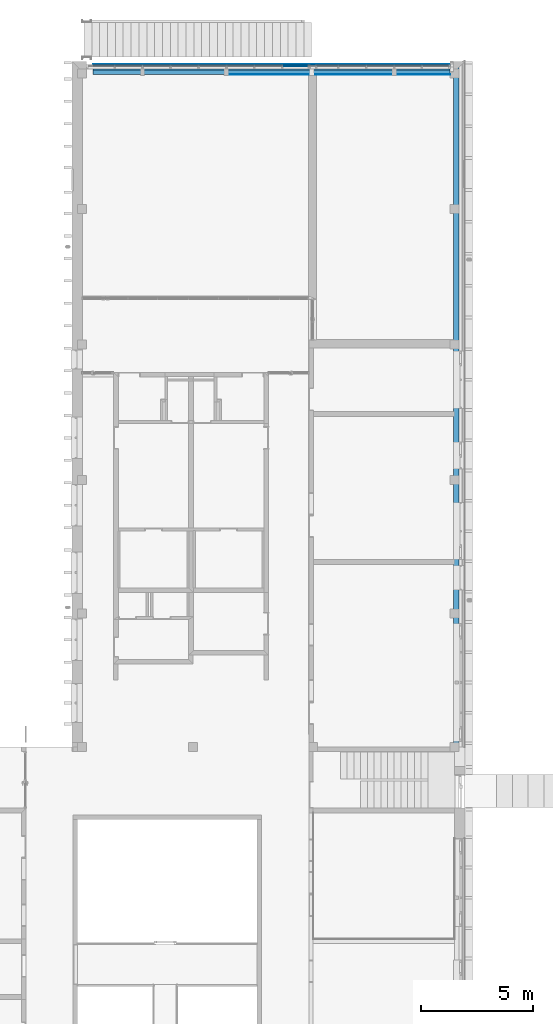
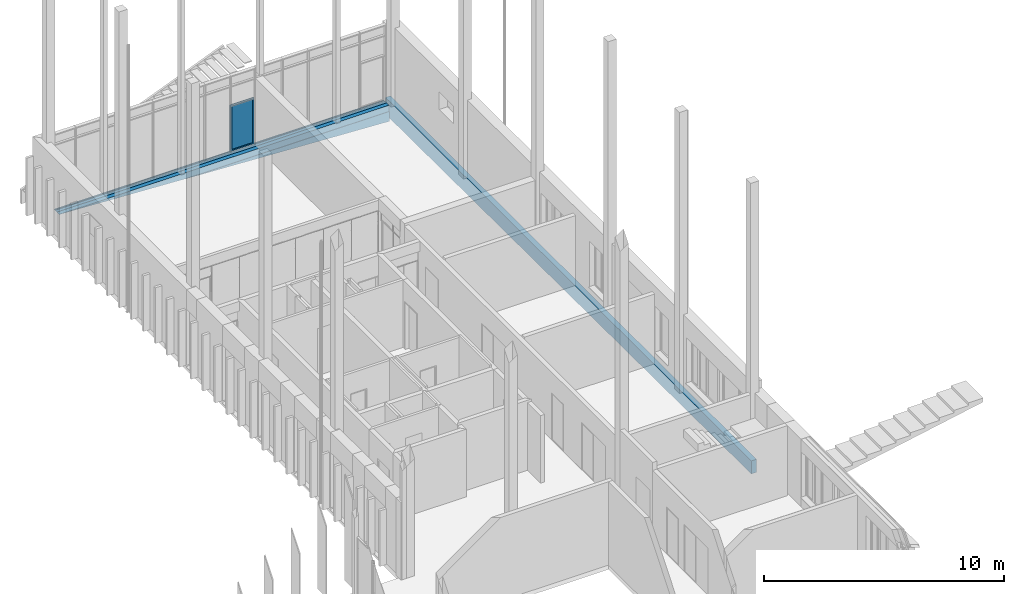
# One storey, part 63 of 89: 9 building element parts, 4 elements without a shape of their own.
"""IFC2X3 building model written with IfcOpenShell, lengths in millimetres."""

from ifc_helpers import new_model, entity, si_unit, converted_unit, derived_unit, money_unit, direction, frame, origin_with_axes, place, context, subcontext, project, spatial, polyline, outline, extrude, boolean, faceted_brep, material, type_object, element, aggregate, save


model = new_model("IFC2X3")

# Units and contexts
model_context = context("Model", 3, precision=0.01, world=origin_with_axes(), true_north=direction((0.0, 1.0)))
body_context = subcontext(model_context, "Body", "Model", "MODEL_VIEW")
ifc_project = project(units=[si_unit("LENGTHUNIT", "METRE", prefix="MILLI"), si_unit("AREAUNIT", "SQUARE_METRE"), si_unit("VOLUMEUNIT", "CUBIC_METRE"), converted_unit("PLANEANGLEUNIT", "DEGREE", entity("IfcPlaneAngleMeasure", 0.0174532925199), si_unit("PLANEANGLEUNIT", "RADIAN"), dimensions=[0, 0, 0, 0, 0, 0, 0]), si_unit("SOLIDANGLEUNIT", "STERADIAN"), money_unit("EUR"), converted_unit("TIMEUNIT", "Year", entity("IfcTimeMeasure", 31556926.0), si_unit("TIMEUNIT", "SECOND"), dimensions=[0, 0, 1, 0, 0, 0, 0]), si_unit("MASSUNIT", "GRAM", prefix="KILO"), si_unit("THERMODYNAMICTEMPERATUREUNIT", "DEGREE_CELSIUS"), si_unit("LUMINOUSINTENSITYUNIT", "LUMEN"), si_unit("ENERGYUNIT", "JOULE", prefix="MEGA"), derived_unit("THERMALCONDUCTANCEUNIT", [(si_unit("POWERUNIT", "WATT"), 1), (si_unit("LENGTHUNIT", "METRE"), -1), (si_unit("THERMODYNAMICTEMPERATUREUNIT", "KELVIN"), -1)]), derived_unit("SPECIFICHEATCAPACITYUNIT", [(si_unit("ENERGYUNIT", "JOULE"), 1), (si_unit("MASSUNIT", "GRAM", prefix="KILO"), -1), (si_unit("THERMODYNAMICTEMPERATUREUNIT", "KELVIN"), -1)]), derived_unit("MASSDENSITYUNIT", [(si_unit("MASSUNIT", "GRAM", prefix="KILO"), 1), (si_unit("VOLUMEUNIT", "CUBIC_METRE"), -1)])], contexts=[model_context])

# Site, building, storey
site_placement = place(None, origin_with_axes())
site = spatial("IfcSite", under=ifc_project, at=site_placement, Name="Puškini 31, Narva", CompositionType="ELEMENT")
building_placement = place(site_placement, origin_with_axes())
building = spatial("IfcBuilding", under=site, at=building_placement, Name="Narva Riigigümnaasium", CompositionType="ELEMENT")
storey_placement = place(building_placement, frame((0.0, 0.0, -3300.0), z_axis=(0.0, 0.0, 1.0), x_axis=(1.0, 0.0, 0.0)))
storey = spatial("IfcBuildingStorey", under=building, at=storey_placement, Name="1.korrus -3.3", CompositionType="ELEMENT", Elevation=-3300.0)

# Wall, building element parts
wall_type_1 = type_object("IfcWallType", Name="G-VS-01 468", PredefinedType="NOTDEFINED")
wall_1_placement = place(storey_placement, frame((53800.0000018, 254190.0, -849.33771919), z_axis=(0.0, 0.0, 1.0), x_axis=(-1.0, 0.0, 0.0)))
wall_1 = element("IfcWall", 1, at=wall_1_placement, inside=storey, type_object=wall_type_1, Name="Välissein")
ifc_material_1 = material(Name="Salto-siseviimistlus-seinad")
building_element_part_1_placement = place(wall_1_placement, origin_with_axes())
building_element_part_1 = element("IfcBuildingElementPart", 2, at=building_element_part_1_placement, material=ifc_material_1, Name="Salto-siseviimistlus-seinad", context=body_context, shape_type="CSG", body=[
    boolean("DIFFERENCE", boolean("DIFFERENCE", boolean("DIFFERENCE", boolean("DIFFERENCE", boolean("DIFFERENCE", boolean("DIFFERENCE", extrude(outline(polyline([(0.0, 200.0), (15908.0743338, 200.0), (15908.0743338, 210.0), (0.0, 210.0), (0.0, 200.0)])), origin_with_axes(), (0.0, 0.0, 1.0), 849.33771919), faceted_brep([(0.0, 210.0, 539.33771919), (0.0, 200.0, 539.33771919), (0.0, 200.0, 849.33771919), (0.0, 210.0, 849.33771919), (9860.88847665, 200.0, 539.33771919), (9860.88847665, 210.0, 539.33771919), (0.0, 200.0, 33.8339195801), (0.0, 200.0, 0.0), (15908.0743338, 200.0, 0.0), (15908.0743338, 200.0, 849.33771919), (15908.0743338, 210.0, 849.33771919), (15908.0743338, 210.0, 0.0), (0.0, 210.0, 0.0), (0.0, 210.0, 33.8339195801)], [[[0, 1, 2, 3]], [[4, 1, 0, 5]], [[4, 6, 7, 8, 9, 2, 1]], [[3, 2, 9, 10]], [[5, 0, 3, 10, 11, 12, 13]], [[13, 6, 4, 5]], [[6, 13, 12, 7]], [[8, 7, 12, 11]], [[9, 8, 11, 10]]])), faceted_brep([(15908.0743338, 0.0, 849.33771919), (0.0, 0.0, 33.8339195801), (0.0, 0.0, 0.0), (15908.0743338, 0.0, 0.0), (0.0, 200.0, 33.8339195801), (15908.0743338, 200.0, 849.33771919), (9860.88847665, 200.0, 539.33771919), (0.0, 200.0, 0.0), (15908.0743338, 200.0, 0.0)], [[[0, 1, 2, 3]], [[4, 1, 0, 5, 6]], [[1, 4, 7, 2]], [[3, 2, 7, 8]], [[5, 0, 3, 8]], [[6, 5, 8, 7, 4]]])), faceted_brep([(15908.0743338, -150.0, 849.33771919), (0.0, -150.0, 33.8339195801), (0.0, -150.0, 0.0), (15908.0743338, -150.0, 0.0), (0.0, 0.0, 33.8339195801), (15908.0743338, 0.0, 849.33771919), (0.0, 0.0, 0.0), (15908.0743338, 0.0, 0.0)], [[[0, 1, 2, 3]], [[4, 1, 0, 5]], [[1, 4, 6, 2]], [[3, 2, 6, 7]], [[5, 0, 3, 7]], [[4, 5, 7, 6]]])), faceted_brep([(15908.0743338, -200.0, 849.33771919), (0.0, -200.0, 33.8339195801), (0.0, -200.0, 0.0), (15908.0743338, -200.0, 0.0), (0.0, -150.0, 33.8339195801), (15908.0743338, -150.0, 849.33771919), (0.0, -150.0, 0.0), (15908.0743338, -150.0, 0.0)], [[[0, 1, 2, 3]], [[4, 1, 0, 5]], [[1, 4, 6, 2]], [[3, 2, 6, 7]], [[5, 0, 3, 7]], [[4, 5, 7, 6]]])), faceted_brep([(15908.0743338, -250.0, 849.33771919), (0.0, -250.0, 33.8339195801), (0.0, -250.0, 0.0), (15908.0743338, -250.0, 0.0), (0.0, -200.0, 33.8339195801), (15908.0743338, -200.0, 849.33771919), (0.0, -200.0, 0.0), (15908.0743338, -200.0, 0.0)], [[[0, 1, 2, 3]], [[4, 1, 0, 5]], [[1, 4, 6, 2]], [[3, 2, 6, 7]], [[5, 0, 3, 7]], [[4, 5, 7, 6]]])), faceted_brep([(15908.0743338, -258.0, 849.33771919), (0.0, -258.0, 33.8339195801), (0.0, -258.0, 0.0), (15908.0743338, -258.0, 0.0), (0.0, -250.0, 33.8339195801), (15908.0743338, -250.0, 849.33771919), (0.0, -250.0, 0.0), (15908.0743338, -250.0, 0.0)], [[[0, 1, 2, 3]], [[4, 1, 0, 5]], [[1, 4, 6, 2]], [[3, 2, 6, 7]], [[5, 0, 3, 7]], [[4, 5, 7, 6]]])),
])
ifc_material_2 = material(Name="Betoon element")
building_element_part_2_placement = place(wall_1_placement, origin_with_axes())
building_element_part_2 = element("IfcBuildingElementPart", 3, at=building_element_part_2_placement, material=ifc_material_2, Name="Betoon element", context=body_context, shape_type="CSG", body=[
    boolean("DIFFERENCE", boolean("DIFFERENCE", boolean("DIFFERENCE", boolean("DIFFERENCE", boolean("DIFFERENCE", boolean("DIFFERENCE", extrude(outline(polyline([(0.0, 0.0), (15908.0743338, 0.0), (15908.0743338, 200.0), (0.0, 200.0), (0.0, 0.0)])), origin_with_axes(), (0.0, 0.0, 1.0), 849.33771919), faceted_brep([(0.0, 210.0, 539.33771919), (0.0, 200.0, 539.33771919), (0.0, 200.0, 849.33771919), (0.0, 210.0, 849.33771919), (9860.88847665, 200.0, 539.33771919), (9860.88847665, 210.0, 539.33771919), (0.0, 200.0, 33.8339195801), (0.0, 200.0, 0.0), (15908.0743338, 200.0, 0.0), (15908.0743338, 200.0, 849.33771919), (15908.0743338, 210.0, 849.33771919), (15908.0743338, 210.0, 0.0), (0.0, 210.0, 0.0), (0.0, 210.0, 33.8339195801)], [[[0, 1, 2, 3]], [[4, 1, 0, 5]], [[4, 6, 7, 8, 9, 2, 1]], [[3, 2, 9, 10]], [[5, 0, 3, 10, 11, 12, 13]], [[13, 6, 4, 5]], [[6, 13, 12, 7]], [[8, 7, 12, 11]], [[9, 8, 11, 10]]])), faceted_brep([(15908.0743338, 0.0, 849.33771919), (0.0, 0.0, 33.8339195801), (0.0, 0.0, 0.0), (15908.0743338, 0.0, 0.0), (0.0, 200.0, 33.8339195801), (15908.0743338, 200.0, 849.33771919), (9860.88847665, 200.0, 539.33771919), (0.0, 200.0, 0.0), (15908.0743338, 200.0, 0.0)], [[[0, 1, 2, 3]], [[4, 1, 0, 5, 6]], [[1, 4, 7, 2]], [[3, 2, 7, 8]], [[5, 0, 3, 8]], [[6, 5, 8, 7, 4]]])), faceted_brep([(15908.0743338, -150.0, 849.33771919), (0.0, -150.0, 33.8339195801), (0.0, -150.0, 0.0), (15908.0743338, -150.0, 0.0), (0.0, 0.0, 33.8339195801), (15908.0743338, 0.0, 849.33771919), (0.0, 0.0, 0.0), (15908.0743338, 0.0, 0.0)], [[[0, 1, 2, 3]], [[4, 1, 0, 5]], [[1, 4, 6, 2]], [[3, 2, 6, 7]], [[5, 0, 3, 7]], [[4, 5, 7, 6]]])), faceted_brep([(15908.0743338, -200.0, 849.33771919), (0.0, -200.0, 33.8339195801), (0.0, -200.0, 0.0), (15908.0743338, -200.0, 0.0), (0.0, -150.0, 33.8339195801), (15908.0743338, -150.0, 849.33771919), (0.0, -150.0, 0.0), (15908.0743338, -150.0, 0.0)], [[[0, 1, 2, 3]], [[4, 1, 0, 5]], [[1, 4, 6, 2]], [[3, 2, 6, 7]], [[5, 0, 3, 7]], [[4, 5, 7, 6]]])), faceted_brep([(15908.0743338, -250.0, 849.33771919), (0.0, -250.0, 33.8339195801), (0.0, -250.0, 0.0), (15908.0743338, -250.0, 0.0), (0.0, -200.0, 33.8339195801), (15908.0743338, -200.0, 849.33771919), (0.0, -200.0, 0.0), (15908.0743338, -200.0, 0.0)], [[[0, 1, 2, 3]], [[4, 1, 0, 5]], [[1, 4, 6, 2]], [[3, 2, 6, 7]], [[5, 0, 3, 7]], [[4, 5, 7, 6]]])), faceted_brep([(15908.0743338, -258.0, 849.33771919), (0.0, -258.0, 33.8339195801), (0.0, -258.0, 0.0), (15908.0743338, -258.0, 0.0), (0.0, -250.0, 33.8339195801), (15908.0743338, -250.0, 849.33771919), (0.0, -250.0, 0.0), (15908.0743338, -250.0, 0.0)], [[[0, 1, 2, 3]], [[4, 1, 0, 5]], [[1, 4, 6, 2]], [[3, 2, 6, 7]], [[5, 0, 3, 7]], [[4, 5, 7, 6]]])),
])
ifc_material_3 = material(Name="Salto-PIR soojustus")
building_element_part_3_placement = place(wall_1_placement, origin_with_axes())
building_element_part_3 = element("IfcBuildingElementPart", 4, at=building_element_part_3_placement, material=ifc_material_3, Name="Salto-PIR soojustus", context=body_context, shape_type="CSG", body=[
    boolean("DIFFERENCE", boolean("DIFFERENCE", boolean("DIFFERENCE", boolean("DIFFERENCE", boolean("DIFFERENCE", boolean("DIFFERENCE", extrude(outline(polyline([(0.0, -150.0), (15908.0743338, -150.0), (15908.0743338, 0.0), (0.0, 0.0), (0.0, -150.0)])), origin_with_axes(), (0.0, 0.0, 1.0), 849.33771919), faceted_brep([(0.0, 210.0, 539.33771919), (0.0, 200.0, 539.33771919), (0.0, 200.0, 849.33771919), (0.0, 210.0, 849.33771919), (9860.88847665, 200.0, 539.33771919), (9860.88847665, 210.0, 539.33771919), (0.0, 200.0, 33.8339195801), (0.0, 200.0, 0.0), (15908.0743338, 200.0, 0.0), (15908.0743338, 200.0, 849.33771919), (15908.0743338, 210.0, 849.33771919), (15908.0743338, 210.0, 0.0), (0.0, 210.0, 0.0), (0.0, 210.0, 33.8339195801)], [[[0, 1, 2, 3]], [[4, 1, 0, 5]], [[4, 6, 7, 8, 9, 2, 1]], [[3, 2, 9, 10]], [[5, 0, 3, 10, 11, 12, 13]], [[13, 6, 4, 5]], [[6, 13, 12, 7]], [[8, 7, 12, 11]], [[9, 8, 11, 10]]])), faceted_brep([(15908.0743338, 0.0, 849.33771919), (0.0, 0.0, 33.8339195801), (0.0, 0.0, 0.0), (15908.0743338, 0.0, 0.0), (0.0, 200.0, 33.8339195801), (15908.0743338, 200.0, 849.33771919), (9860.88847665, 200.0, 539.33771919), (0.0, 200.0, 0.0), (15908.0743338, 200.0, 0.0)], [[[0, 1, 2, 3]], [[4, 1, 0, 5, 6]], [[1, 4, 7, 2]], [[3, 2, 7, 8]], [[5, 0, 3, 8]], [[6, 5, 8, 7, 4]]])), faceted_brep([(15908.0743338, -150.0, 849.33771919), (0.0, -150.0, 33.8339195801), (0.0, -150.0, 0.0), (15908.0743338, -150.0, 0.0), (0.0, 0.0, 33.8339195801), (15908.0743338, 0.0, 849.33771919), (0.0, 0.0, 0.0), (15908.0743338, 0.0, 0.0)], [[[0, 1, 2, 3]], [[4, 1, 0, 5]], [[1, 4, 6, 2]], [[3, 2, 6, 7]], [[5, 0, 3, 7]], [[4, 5, 7, 6]]])), faceted_brep([(15908.0743338, -200.0, 849.33771919), (0.0, -200.0, 33.8339195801), (0.0, -200.0, 0.0), (15908.0743338, -200.0, 0.0), (0.0, -150.0, 33.8339195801), (15908.0743338, -150.0, 849.33771919), (0.0, -150.0, 0.0), (15908.0743338, -150.0, 0.0)], [[[0, 1, 2, 3]], [[4, 1, 0, 5]], [[1, 4, 6, 2]], [[3, 2, 6, 7]], [[5, 0, 3, 7]], [[4, 5, 7, 6]]])), faceted_brep([(15908.0743338, -250.0, 849.33771919), (0.0, -250.0, 33.8339195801), (0.0, -250.0, 0.0), (15908.0743338, -250.0, 0.0), (0.0, -200.0, 33.8339195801), (15908.0743338, -200.0, 849.33771919), (0.0, -200.0, 0.0), (15908.0743338, -200.0, 0.0)], [[[0, 1, 2, 3]], [[4, 1, 0, 5]], [[1, 4, 6, 2]], [[3, 2, 6, 7]], [[5, 0, 3, 7]], [[4, 5, 7, 6]]])), faceted_brep([(15908.0743338, -258.0, 849.33771919), (0.0, -258.0, 33.8339195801), (0.0, -258.0, 0.0), (15908.0743338, -258.0, 0.0), (0.0, -250.0, 33.8339195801), (15908.0743338, -250.0, 849.33771919), (0.0, -250.0, 0.0), (15908.0743338, -250.0, 0.0)], [[[0, 1, 2, 3]], [[4, 1, 0, 5]], [[1, 4, 6, 2]], [[3, 2, 6, 7]], [[5, 0, 3, 7]], [[4, 5, 7, 6]]])),
])
building_element_part_4_placement = place(wall_1_placement, origin_with_axes())
building_element_part_4 = element("IfcBuildingElementPart", 5, at=building_element_part_4_placement, material=ifc_material_3, Name="Salto-PIR soojustus", context=body_context, shape_type="CSG", body=[
    boolean("DIFFERENCE", boolean("DIFFERENCE", boolean("DIFFERENCE", boolean("DIFFERENCE", boolean("DIFFERENCE", boolean("DIFFERENCE", extrude(outline(polyline([(0.0, -200.0), (15908.0743338, -200.0), (15908.0743338, -150.0), (0.0, -150.0), (0.0, -200.0)])), origin_with_axes(), (0.0, 0.0, 1.0), 849.33771919), faceted_brep([(0.0, 210.0, 539.33771919), (0.0, 200.0, 539.33771919), (0.0, 200.0, 849.33771919), (0.0, 210.0, 849.33771919), (9860.88847665, 200.0, 539.33771919), (9860.88847665, 210.0, 539.33771919), (0.0, 200.0, 33.8339195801), (0.0, 200.0, 0.0), (15908.0743338, 200.0, 0.0), (15908.0743338, 200.0, 849.33771919), (15908.0743338, 210.0, 849.33771919), (15908.0743338, 210.0, 0.0), (0.0, 210.0, 0.0), (0.0, 210.0, 33.8339195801)], [[[0, 1, 2, 3]], [[4, 1, 0, 5]], [[4, 6, 7, 8, 9, 2, 1]], [[3, 2, 9, 10]], [[5, 0, 3, 10, 11, 12, 13]], [[13, 6, 4, 5]], [[6, 13, 12, 7]], [[8, 7, 12, 11]], [[9, 8, 11, 10]]])), faceted_brep([(15908.0743338, 0.0, 849.33771919), (0.0, 0.0, 33.8339195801), (0.0, 0.0, 0.0), (15908.0743338, 0.0, 0.0), (0.0, 200.0, 33.8339195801), (15908.0743338, 200.0, 849.33771919), (9860.88847665, 200.0, 539.33771919), (0.0, 200.0, 0.0), (15908.0743338, 200.0, 0.0)], [[[0, 1, 2, 3]], [[4, 1, 0, 5, 6]], [[1, 4, 7, 2]], [[3, 2, 7, 8]], [[5, 0, 3, 8]], [[6, 5, 8, 7, 4]]])), faceted_brep([(15908.0743338, -150.0, 849.33771919), (0.0, -150.0, 33.8339195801), (0.0, -150.0, 0.0), (15908.0743338, -150.0, 0.0), (0.0, 0.0, 33.8339195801), (15908.0743338, 0.0, 849.33771919), (0.0, 0.0, 0.0), (15908.0743338, 0.0, 0.0)], [[[0, 1, 2, 3]], [[4, 1, 0, 5]], [[1, 4, 6, 2]], [[3, 2, 6, 7]], [[5, 0, 3, 7]], [[4, 5, 7, 6]]])), faceted_brep([(15908.0743338, -200.0, 849.33771919), (0.0, -200.0, 33.8339195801), (0.0, -200.0, 0.0), (15908.0743338, -200.0, 0.0), (0.0, -150.0, 33.8339195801), (15908.0743338, -150.0, 849.33771919), (0.0, -150.0, 0.0), (15908.0743338, -150.0, 0.0)], [[[0, 1, 2, 3]], [[4, 1, 0, 5]], [[1, 4, 6, 2]], [[3, 2, 6, 7]], [[5, 0, 3, 7]], [[4, 5, 7, 6]]])), faceted_brep([(15908.0743338, -250.0, 849.33771919), (0.0, -250.0, 33.8339195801), (0.0, -250.0, 0.0), (15908.0743338, -250.0, 0.0), (0.0, -200.0, 33.8339195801), (15908.0743338, -200.0, 849.33771919), (0.0, -200.0, 0.0), (15908.0743338, -200.0, 0.0)], [[[0, 1, 2, 3]], [[4, 1, 0, 5]], [[1, 4, 6, 2]], [[3, 2, 6, 7]], [[5, 0, 3, 7]], [[4, 5, 7, 6]]])), faceted_brep([(15908.0743338, -258.0, 849.33771919), (0.0, -258.0, 33.8339195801), (0.0, -258.0, 0.0), (15908.0743338, -258.0, 0.0), (0.0, -250.0, 33.8339195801), (15908.0743338, -250.0, 849.33771919), (0.0, -250.0, 0.0), (15908.0743338, -250.0, 0.0)], [[[0, 1, 2, 3]], [[4, 1, 0, 5]], [[1, 4, 6, 2]], [[3, 2, 6, 7]], [[5, 0, 3, 7]], [[4, 5, 7, 6]]])),
])
ifc_material_4 = material(Name="Salto-roovitus")
building_element_part_5_placement = place(wall_1_placement, origin_with_axes())
building_element_part_5 = element("IfcBuildingElementPart", 6, at=building_element_part_5_placement, material=ifc_material_4, Name="Salto-roovitus", context=body_context, shape_type="CSG", body=[
    boolean("DIFFERENCE", boolean("DIFFERENCE", boolean("DIFFERENCE", boolean("DIFFERENCE", boolean("DIFFERENCE", boolean("DIFFERENCE", extrude(outline(polyline([(0.0, -250.0), (15908.0743338, -250.0), (15908.0743338, -200.0), (0.0, -200.0), (0.0, -250.0)])), origin_with_axes(), (0.0, 0.0, 1.0), 849.33771919), faceted_brep([(0.0, 210.0, 539.33771919), (0.0, 200.0, 539.33771919), (0.0, 200.0, 849.33771919), (0.0, 210.0, 849.33771919), (9860.88847665, 200.0, 539.33771919), (9860.88847665, 210.0, 539.33771919), (0.0, 200.0, 33.8339195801), (0.0, 200.0, 0.0), (15908.0743338, 200.0, 0.0), (15908.0743338, 200.0, 849.33771919), (15908.0743338, 210.0, 849.33771919), (15908.0743338, 210.0, 0.0), (0.0, 210.0, 0.0), (0.0, 210.0, 33.8339195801)], [[[0, 1, 2, 3]], [[4, 1, 0, 5]], [[4, 6, 7, 8, 9, 2, 1]], [[3, 2, 9, 10]], [[5, 0, 3, 10, 11, 12, 13]], [[13, 6, 4, 5]], [[6, 13, 12, 7]], [[8, 7, 12, 11]], [[9, 8, 11, 10]]])), faceted_brep([(15908.0743338, 0.0, 849.33771919), (0.0, 0.0, 33.8339195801), (0.0, 0.0, 0.0), (15908.0743338, 0.0, 0.0), (0.0, 200.0, 33.8339195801), (15908.0743338, 200.0, 849.33771919), (9860.88847665, 200.0, 539.33771919), (0.0, 200.0, 0.0), (15908.0743338, 200.0, 0.0)], [[[0, 1, 2, 3]], [[4, 1, 0, 5, 6]], [[1, 4, 7, 2]], [[3, 2, 7, 8]], [[5, 0, 3, 8]], [[6, 5, 8, 7, 4]]])), faceted_brep([(15908.0743338, -150.0, 849.33771919), (0.0, -150.0, 33.8339195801), (0.0, -150.0, 0.0), (15908.0743338, -150.0, 0.0), (0.0, 0.0, 33.8339195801), (15908.0743338, 0.0, 849.33771919), (0.0, 0.0, 0.0), (15908.0743338, 0.0, 0.0)], [[[0, 1, 2, 3]], [[4, 1, 0, 5]], [[1, 4, 6, 2]], [[3, 2, 6, 7]], [[5, 0, 3, 7]], [[4, 5, 7, 6]]])), faceted_brep([(15908.0743338, -200.0, 849.33771919), (0.0, -200.0, 33.8339195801), (0.0, -200.0, 0.0), (15908.0743338, -200.0, 0.0), (0.0, -150.0, 33.8339195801), (15908.0743338, -150.0, 849.33771919), (0.0, -150.0, 0.0), (15908.0743338, -150.0, 0.0)], [[[0, 1, 2, 3]], [[4, 1, 0, 5]], [[1, 4, 6, 2]], [[3, 2, 6, 7]], [[5, 0, 3, 7]], [[4, 5, 7, 6]]])), faceted_brep([(15908.0743338, -250.0, 849.33771919), (0.0, -250.0, 33.8339195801), (0.0, -250.0, 0.0), (15908.0743338, -250.0, 0.0), (0.0, -200.0, 33.8339195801), (15908.0743338, -200.0, 849.33771919), (0.0, -200.0, 0.0), (15908.0743338, -200.0, 0.0)], [[[0, 1, 2, 3]], [[4, 1, 0, 5]], [[1, 4, 6, 2]], [[3, 2, 6, 7]], [[5, 0, 3, 7]], [[4, 5, 7, 6]]])), faceted_brep([(15908.0743338, -258.0, 849.33771919), (0.0, -258.0, 33.8339195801), (0.0, -258.0, 0.0), (15908.0743338, -258.0, 0.0), (0.0, -250.0, 33.8339195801), (15908.0743338, -250.0, 849.33771919), (0.0, -250.0, 0.0), (15908.0743338, -250.0, 0.0)], [[[0, 1, 2, 3]], [[4, 1, 0, 5]], [[1, 4, 6, 2]], [[3, 2, 6, 7]], [[5, 0, 3, 7]], [[4, 5, 7, 6]]])),
])
ifc_material_5 = material(Name="fassaadiplaat")
building_element_part_6_placement = place(wall_1_placement, origin_with_axes())
building_element_part_6 = element("IfcBuildingElementPart", 7, at=building_element_part_6_placement, material=ifc_material_5, Name="fassaadiplaat", context=body_context, shape_type="CSG", body=[
    boolean("DIFFERENCE", boolean("DIFFERENCE", boolean("DIFFERENCE", boolean("DIFFERENCE", boolean("DIFFERENCE", boolean("DIFFERENCE", extrude(outline(polyline([(0.0, -258.0), (15908.0743338, -258.0), (15908.0743338, -250.0), (0.0, -250.0), (0.0, -258.0)])), origin_with_axes(), (0.0, 0.0, 1.0), 849.33771919), faceted_brep([(0.0, 210.0, 539.33771919), (0.0, 200.0, 539.33771919), (0.0, 200.0, 849.33771919), (0.0, 210.0, 849.33771919), (9860.88847665, 200.0, 539.33771919), (9860.88847665, 210.0, 539.33771919), (0.0, 200.0, 33.8339195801), (0.0, 200.0, 0.0), (15908.0743338, 200.0, 0.0), (15908.0743338, 200.0, 849.33771919), (15908.0743338, 210.0, 849.33771919), (15908.0743338, 210.0, 0.0), (0.0, 210.0, 0.0), (0.0, 210.0, 33.8339195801)], [[[0, 1, 2, 3]], [[4, 1, 0, 5]], [[4, 6, 7, 8, 9, 2, 1]], [[3, 2, 9, 10]], [[5, 0, 3, 10, 11, 12, 13]], [[13, 6, 4, 5]], [[6, 13, 12, 7]], [[8, 7, 12, 11]], [[9, 8, 11, 10]]])), faceted_brep([(15908.0743338, 0.0, 849.33771919), (0.0, 0.0, 33.8339195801), (0.0, 0.0, 0.0), (15908.0743338, 0.0, 0.0), (0.0, 200.0, 33.8339195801), (15908.0743338, 200.0, 849.33771919), (9860.88847665, 200.0, 539.33771919), (0.0, 200.0, 0.0), (15908.0743338, 200.0, 0.0)], [[[0, 1, 2, 3]], [[4, 1, 0, 5, 6]], [[1, 4, 7, 2]], [[3, 2, 7, 8]], [[5, 0, 3, 8]], [[6, 5, 8, 7, 4]]])), faceted_brep([(15908.0743338, -150.0, 849.33771919), (0.0, -150.0, 33.8339195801), (0.0, -150.0, 0.0), (15908.0743338, -150.0, 0.0), (0.0, 0.0, 33.8339195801), (15908.0743338, 0.0, 849.33771919), (0.0, 0.0, 0.0), (15908.0743338, 0.0, 0.0)], [[[0, 1, 2, 3]], [[4, 1, 0, 5]], [[1, 4, 6, 2]], [[3, 2, 6, 7]], [[5, 0, 3, 7]], [[4, 5, 7, 6]]])), faceted_brep([(15908.0743338, -200.0, 849.33771919), (0.0, -200.0, 33.8339195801), (0.0, -200.0, 0.0), (15908.0743338, -200.0, 0.0), (0.0, -150.0, 33.8339195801), (15908.0743338, -150.0, 849.33771919), (0.0, -150.0, 0.0), (15908.0743338, -150.0, 0.0)], [[[0, 1, 2, 3]], [[4, 1, 0, 5]], [[1, 4, 6, 2]], [[3, 2, 6, 7]], [[5, 0, 3, 7]], [[4, 5, 7, 6]]])), faceted_brep([(15908.0743338, -250.0, 849.33771919), (0.0, -250.0, 33.8339195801), (0.0, -250.0, 0.0), (15908.0743338, -250.0, 0.0), (0.0, -200.0, 33.8339195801), (15908.0743338, -200.0, 849.33771919), (0.0, -200.0, 0.0), (15908.0743338, -200.0, 0.0)], [[[0, 1, 2, 3]], [[4, 1, 0, 5]], [[1, 4, 6, 2]], [[3, 2, 6, 7]], [[5, 0, 3, 7]], [[4, 5, 7, 6]]])), faceted_brep([(15908.0743338, -258.0, 849.33771919), (0.0, -258.0, 33.8339195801), (0.0, -258.0, 0.0), (15908.0743338, -258.0, 0.0), (0.0, -250.0, 33.8339195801), (15908.0743338, -250.0, 849.33771919), (0.0, -250.0, 0.0), (15908.0743338, -250.0, 0.0)], [[[0, 1, 2, 3]], [[4, 1, 0, 5]], [[1, 4, 6, 2]], [[3, 2, 6, 7]], [[5, 0, 3, 7]], [[4, 5, 7, 6]]])),
])
aggregate(wall_1, [building_element_part_1, building_element_part_2, building_element_part_3, building_element_part_4, building_element_part_5, building_element_part_6])

# Wall, building element part
wall_type_2 = type_object("IfcWallType", Name="G-VS-04 508", PredefinedType="NOTDEFINED")
wall_2_placement = place(storey_placement, frame((54200.0000015, 254308.805854, -849.33771919), z_axis=(0.0, 0.0, 1.0), x_axis=(0.0, -1.0, 0.0)))
wall_2 = element("IfcWall", 8, at=wall_2_placement, inside=storey, type_object=wall_type_2, Name="Välissein")
ifc_material_6 = material(Name="Betoon_1")
building_element_part_7_placement = place(wall_2_placement, origin_with_axes())
building_element_part_7 = element("IfcBuildingElementPart", 9, at=building_element_part_7_placement, material=ifc_material_6, Name="Betoon_1", context=body_context, shape_type="CSG", body=[
    boolean("DIFFERENCE", boolean("DIFFERENCE", boolean("DIFFERENCE", boolean("DIFFERENCE", boolean("DIFFERENCE", extrude(outline(polyline([(-258.0, -250.0), (30303.6319167, -250.0), (30303.6319167, 0.0), (-258.0, 0.0), (-258.0, -250.0)])), origin_with_axes(), (0.0, 0.0, 1.0), 849.33771919), faceted_brep([(-97.517674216, -250.0, 0.0), (-97.517674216, 0.0, 0.0), (30303.6319167, 0.0, 0.0), (30303.6319167, -250.0, 0.0), (30303.6319167, 0.0, 185.405352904), (30303.6319167, -250.0, 185.405352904)], [[[0, 1, 2, 3]], [[4, 1, 0, 5]], [[1, 4, 2]], [[4, 5, 3, 2]], [[5, 0, 3]]])), faceted_brep([(-97.517674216, 0.0, 0.0), (-97.517674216, 150.0, 0.0), (30303.6319167, 150.0, 0.0), (30303.6319167, 0.0, 0.0), (30303.6319167, 150.0, 185.405352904), (30303.6319167, 0.0, 185.405352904)], [[[0, 1, 2, 3]], [[4, 1, 0, 5]], [[1, 4, 2]], [[4, 5, 3, 2]], [[5, 0, 3]]])), faceted_brep([(-97.517674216, 150.0, 0.0), (-97.517674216, 200.0, 0.0), (30303.6319167, 200.0, 0.0), (30303.6319167, 150.0, 0.0), (30303.6319167, 200.0, 185.405352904), (30303.6319167, 150.0, 185.405352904)], [[[0, 1, 2, 3]], [[4, 1, 0, 5]], [[1, 4, 2]], [[4, 5, 3, 2]], [[5, 0, 3]]])), faceted_brep([(-97.517674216, 200.0, 0.0), (-97.517674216, 250.0, 0.0), (30303.6319167, 250.0, 0.0), (30303.6319167, 200.0, 0.0), (30303.6319167, 250.0, 185.405352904), (30303.6319167, 200.0, 185.405352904)], [[[0, 1, 2, 3]], [[4, 1, 0, 5]], [[1, 4, 2]], [[4, 5, 3, 2]], [[5, 0, 3]]])), faceted_brep([(-97.517674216, 250.0, 0.0), (-97.517674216, 258.0, 0.0), (30303.6319167, 258.0, 0.0), (30303.6319167, 250.0, 0.0), (30303.6319167, 258.0, 185.405352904), (30303.6319167, 250.0, 185.405352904)], [[[0, 1, 2, 3]], [[4, 1, 0, 5]], [[1, 4, 2]], [[4, 5, 3, 2]], [[5, 0, 3]]])),
])
aggregate(wall_2, [building_element_part_7])

# Curtain wall, plate, building element parts
curtain_wall_type = type_object("IfcCurtainWallType", Name="Curtain Wall Type", PredefinedType="NOTDEFINED")
curtain_wall_placement = place(storey_placement, frame((47634.9999923, 254360.0, -1.86566340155e-05), z_axis=(0.0, 0.0, 1.0), x_axis=(1.0, 0.0, 0.0)))
curtain_wall = element("IfcCurtainWall", 10, at=curtain_wall_placement, inside=storey, type_object=curtain_wall_type, Name="G-KLF-06")
plate_type = type_object("IfcPlateType", Name="15 x 10 x 20", PredefinedType="CURTAIN_PANEL")
plate_placement = place(curtain_wall_placement, frame((-723.022919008, 0.0, 1600.00001825), z_axis=(0.0, 0.0, 1.0), x_axis=(-1.0, 0.0, 0.0)))
plate = element("IfcPlate", 11, at=plate_placement, type_object=plate_type, Name="G-KLF-06-A2", ObjectType="CURTAIN_PANEL")
aggregate(curtain_wall, [plate])
ifc_material_7 = material(Name="ET-04_Alumiinium")
building_element_part_8_placement = place(plate_placement, origin_with_axes())
building_element_part_8 = element("IfcBuildingElementPart", 12, at=building_element_part_8_placement, material=ifc_material_7, Name="ET-04_Alumiinium", context=body_context, shape_type="Brep", body=[
    faceted_brep([(562.977107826, -20.0, -1550.00001768), (562.977107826, -25.0, -1550.00001768), (-563.022905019, -25.0, -1550.00001768), (-563.022905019, -20.0, -1550.00001768), (517.977107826, -20.0, -1505.00001768), (517.977107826, -25.0, -1505.00001768), (-518.022905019, -25.0, -1505.00001768), (-518.022905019, -20.0, -1505.00001768)], [[[0, 1, 2, 3]], [[4, 5, 1, 0]], [[1, 5, 6, 2]], [[3, 2, 6, 7]], [[0, 3, 7, 4]], [[7, 6, 5, 4]]]),
    faceted_brep([(-563.022905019, -20.0, -1550.00001768), (-563.022905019, -25.0, -1550.00001768), (-563.022905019, -25.0, 800.000009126), (-563.022905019, -20.0, 800.000009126), (-518.022905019, -20.0, -1505.00001768), (-518.022905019, -25.0, -1505.00001768), (-518.022905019, -25.0, 755.000009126), (-518.022905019, -20.0, 755.000009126)], [[[0, 1, 2, 3]], [[4, 5, 1, 0]], [[1, 5, 6, 2]], [[3, 2, 6, 7]], [[0, 3, 7, 4]], [[7, 6, 5, 4]]]),
    faceted_brep([(562.977107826, -20.0, 800.000009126), (562.977107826, -25.0, 800.000009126), (517.977107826, -25.0, 755.000009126), (517.977107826, -20.0, 755.000009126), (-563.022905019, -20.0, 800.000009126), (-563.022905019, -25.0, 800.000009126), (-518.022905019, -25.0, 755.000009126), (-518.022905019, -20.0, 755.000009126)], [[[0, 1, 2, 3]], [[4, 5, 1, 0]], [[1, 5, 6, 2]], [[3, 2, 6, 7]], [[0, 3, 7, 4]], [[7, 6, 5, 4]]]),
    faceted_brep([(562.977107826, -20.0, -1550.00001768), (562.977107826, -25.0, -1550.00001768), (517.977107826, -25.0, -1505.00001768), (517.977107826, -20.0, -1505.00001768), (562.977107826, -20.0, 800.000009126), (562.977107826, -25.0, 800.000009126), (517.977107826, -25.0, 755.000009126), (517.977107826, -20.0, 755.000009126)], [[[0, 1, 2, 3]], [[4, 5, 1, 0]], [[1, 5, 6, 2]], [[3, 2, 6, 7]], [[0, 3, 7, 4]], [[7, 6, 5, 4]]]),
    faceted_brep([(562.977107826, 30.0, -1550.00001768), (562.977107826, -20.0, -1550.00001768), (-563.022905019, -20.0, -1550.00001768), (-563.022905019, 30.0, -1550.00001768), (542.977107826, 30.0, -1530.00001768), (542.977107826, -20.0, -1530.00001768), (-543.022905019, -20.0, -1530.00001768), (-543.022905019, 30.0, -1530.00001768)], [[[0, 1, 2, 3]], [[4, 5, 1, 0]], [[1, 5, 6, 2]], [[3, 2, 6, 7]], [[0, 3, 7, 4]], [[7, 6, 5, 4]]]),
    faceted_brep([(-563.022905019, 30.0, -1550.00001768), (-563.022905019, -20.0, -1550.00001768), (-563.022905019, -20.0, 800.000009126), (-563.022905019, 30.0, 800.000009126), (-543.022905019, 30.0, -1530.00001768), (-543.022905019, -20.0, -1530.00001768), (-543.022905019, -20.0, 780.000009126), (-543.022905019, 30.0, 780.000009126)], [[[0, 1, 2, 3]], [[4, 5, 1, 0]], [[1, 5, 6, 2]], [[3, 2, 6, 7]], [[0, 3, 7, 4]], [[7, 6, 5, 4]]]),
    faceted_brep([(562.977107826, 30.0, 800.000009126), (562.977107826, -20.0, 800.000009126), (542.977107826, -20.0, 780.000009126), (542.977107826, 30.0, 780.000009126), (-563.022905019, 30.0, 800.000009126), (-563.022905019, -20.0, 800.000009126), (-543.022905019, -20.0, 780.000009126), (-543.022905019, 30.0, 780.000009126)], [[[0, 1, 2, 3]], [[4, 5, 1, 0]], [[1, 5, 6, 2]], [[3, 2, 6, 7]], [[0, 3, 7, 4]], [[7, 6, 5, 4]]]),
    faceted_brep([(562.977107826, 30.0, -1550.00001768), (562.977107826, -20.0, -1550.00001768), (542.977107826, -20.0, -1530.00001768), (542.977107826, 30.0, -1530.00001768), (562.977107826, 30.0, 800.000009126), (562.977107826, -20.0, 800.000009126), (542.977107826, -20.0, 780.000009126), (542.977107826, 30.0, 780.000009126)], [[[0, 1, 2, 3]], [[4, 5, 1, 0]], [[1, 5, 6, 2]], [[3, 2, 6, 7]], [[0, 3, 7, 4]], [[7, 6, 5, 4]]]),
    faceted_brep([(577.977072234, 9.99999999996, -1565.00001785), (577.977072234, -10.0, -1565.00001785), (-578.02290519, -10.0, -1565.00001785), (-578.02290519, 9.99999999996, -1565.00001785), (562.977107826, 9.99999999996, -1550.00001768), (562.977107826, -10.0, -1550.00001768), (-563.022905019, -10.0, -1550.00001768), (-563.022905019, 9.99999999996, -1550.00001768)], [[[0, 1, 2, 3]], [[4, 5, 1, 0]], [[1, 5, 6, 2]], [[3, 2, 6, 7]], [[0, 3, 7, 4]], [[7, 6, 5, 4]]]),
    faceted_brep([(-578.02290519, 9.99999999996, -1565.00001785), (-578.02290519, -10.0, -1565.00001785), (-578.02290519, -10.0, 800.000009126), (-578.02290519, 9.99999999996, 800.000009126), (-563.022905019, 9.99999999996, -1550.00001768), (-563.022905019, -10.0, -1550.00001768), (-563.022905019, -10.0, 800.000009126), (-563.022905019, 9.99999999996, 800.000009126)], [[[0, 1, 2, 3]], [[4, 5, 1, 0]], [[1, 5, 6, 2]], [[3, 2, 6, 7]], [[0, 3, 7, 4]], [[7, 6, 5, 4]]]),
    faceted_brep([(577.977072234, 9.99999999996, 800.000009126), (577.977072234, -10.0, 800.000009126), (577.977072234, -10.0, -1565.00001785), (577.977072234, 9.99999999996, -1565.00001785), (562.977107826, 9.99999999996, 800.000009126), (562.977107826, -10.0, 800.000009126), (562.977107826, -10.0, -1550.00001768), (562.977107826, 9.99999999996, -1550.00001768)], [[[0, 1, 2, 3]], [[4, 5, 1, 0]], [[1, 5, 6, 2]], [[3, 2, 6, 7]], [[0, 3, 7, 4]], [[7, 6, 5, 4]]]),
    faceted_brep([(497.977107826, -20.0, -1485.00001768), (497.977107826, -20.0, 735.000009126), (497.977107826, 35.0, 735.000009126), (497.977107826, 35.0, -1485.00001768), (542.977107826, -20.0, -1530.00001768), (542.977107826, -20.0, 780.000009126), (542.977107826, 35.0, 780.000009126), (542.977107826, 35.0, -1530.00001768)], [[[0, 1, 2, 3]], [[0, 4, 5, 1]], [[1, 5, 6, 2]], [[3, 2, 6, 7]], [[4, 0, 3, 7]], [[5, 4, 7, 6]]]),
    faceted_brep([(-543.022905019, -20.0, -1530.00001768), (-543.022905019, -20.0, 780.000009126), (-543.022905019, 35.0, 780.000009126), (-543.022905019, 35.0, -1530.00001768), (-498.022905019, -20.0, -1485.00001768), (-498.022905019, -20.0, 735.000009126), (-498.022905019, 35.0, 735.000009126), (-498.022905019, 35.0, -1485.00001768)], [[[0, 1, 2, 3]], [[0, 4, 5, 1]], [[1, 5, 6, 2]], [[3, 2, 6, 7]], [[4, 0, 3, 7]], [[5, 4, 7, 6]]]),
    faceted_brep([(-543.022905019, -20.0, -1530.00001768), (-498.022905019, -20.0, -1485.00001768), (-498.022905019, 35.0, -1485.00001768), (-543.022905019, 35.0, -1530.00001768), (542.977107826, -20.0, -1530.00001768), (497.977107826, -20.0, -1485.00001768), (497.977107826, 35.0, -1485.00001768), (542.977107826, 35.0, -1530.00001768)], [[[0, 1, 2, 3]], [[0, 4, 5, 1]], [[1, 5, 6, 2]], [[3, 2, 6, 7]], [[4, 0, 3, 7]], [[5, 4, 7, 6]]]),
    faceted_brep([(542.977107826, -20.0, 780.000009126), (497.977107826, -20.0, 735.000009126), (497.977107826, 35.0, 735.000009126), (542.977107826, 35.0, 780.000009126), (-543.022905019, -20.0, 780.000009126), (-498.022905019, -20.0, 735.000009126), (-498.022905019, 35.0, 735.000009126), (-543.022905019, 35.0, 780.000009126)], [[[0, 1, 2, 3]], [[0, 4, 5, 1]], [[1, 5, 6, 2]], [[3, 2, 6, 7]], [[4, 0, 3, 7]], [[5, 4, 7, 6]]]),
])
ifc_material_8 = material(Name="VKR-05_Klaas")
building_element_part_9_placement = place(plate_placement, origin_with_axes())
building_element_part_9 = element("IfcBuildingElementPart", 13, at=building_element_part_9_placement, material=ifc_material_8, Name="VKR-05_Klaas", context=body_context, shape_type="Brep", body=[
    faceted_brep([(497.977107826, -10.0, -1485.00001768), (-498.022905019, -10.0, -1485.00001768), (-498.022905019, 5.99999999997, -1485.00001768), (497.977107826, 5.99999999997, -1485.00001768), (497.977107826, -10.0, 735.000009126), (-498.022905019, -10.0, 735.000009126), (-498.022905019, 5.99999999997, 735.000009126), (497.977107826, 5.99999999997, 735.000009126)], [[[0, 1, 2, 3]], [[0, 4, 5, 1]], [[1, 5, 6, 2]], [[3, 2, 6, 7]], [[4, 0, 3, 7]], [[5, 4, 7, 6]]]),
])
aggregate(plate, [building_element_part_8, building_element_part_9])

save(model, "model.ifc")
